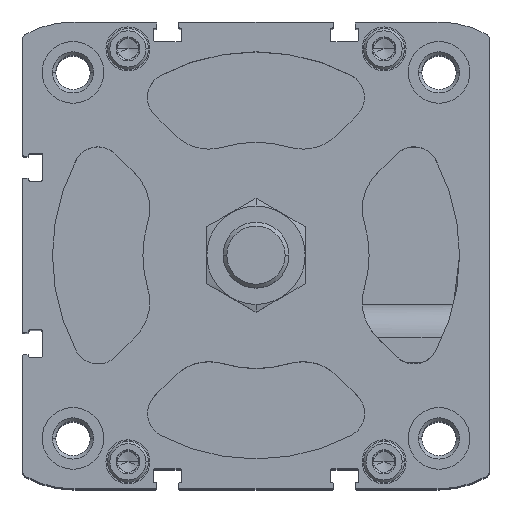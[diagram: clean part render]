
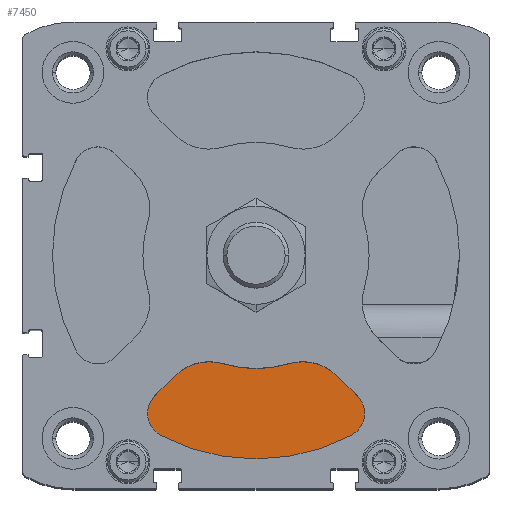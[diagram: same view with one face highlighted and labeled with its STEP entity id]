
A CAD part, top view. The second image highlights one B-rep face of the part: STEP entity #7450.
In plain terms, the highlighted planar face has unit normal (0, 0, 1).
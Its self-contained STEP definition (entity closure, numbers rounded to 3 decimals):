
#268 = CIRCLE ( 'NONE', #13044, 27.5 ) ;
#740 = CARTESIAN_POINT ( 'NONE',  ( 20.393, -38.424, -18.8 ) ) ;
#885 = CARTESIAN_POINT ( 'NONE',  ( 0., 0., -18.8 ) ) ;
#1167 = CARTESIAN_POINT ( 'NONE',  ( 23.205, -43.724, -18.8 ) ) ;
#1306 = LINE ( 'NONE', #18772, #6853 ) ;
#1476 = VERTEX_POINT ( 'NONE', #13177 ) ;
#1543 = DIRECTION ( 'NONE',  ( -0.707, -0.707, 0. ) ) ;
#1685 = DIRECTION ( 'NONE',  ( -1., 0., 0. ) ) ;
#2602 = CARTESIAN_POINT ( 'NONE',  ( 11.325, -37.842, -18.8 ) ) ;
#2688 = DIRECTION ( 'NONE',  ( 0., 0., 1. ) ) ;
#3190 = CIRCLE ( 'NONE', #17770, 12. ) ;
#3400 = DIRECTION ( 'NONE',  ( 0., 0., 1. ) ) ;
#3704 = ORIENTED_EDGE ( 'NONE', *, *, #3718, .T. ) ;
#3718 = EDGE_CURVE ( 'NONE', #1476, #17280, #22121, .T. ) ;
#3730 = EDGE_LOOP ( 'NONE', ( #3704, #15279, #8126, #14100, #13591, #5807, #6378, #14117, #4641 ) ) ;
#3914 = CIRCLE ( 'NONE', #21080, 6. ) ;
#3994 = DIRECTION ( 'NONE',  ( -1., 0., 0. ) ) ;
#4508 = CIRCLE ( 'NONE', #6711, 6. ) ;
#4544 = DIRECTION ( 'NONE',  ( 1., 0., 0. ) ) ;
#4641 = ORIENTED_EDGE ( 'NONE', *, *, #5900, .T. ) ;
#4778 = DIRECTION ( 'NONE',  ( -1., 0., 0. ) ) ;
#5171 = EDGE_CURVE ( 'NONE', #18215, #15072, #1306, .T. ) ;
#5225 = CARTESIAN_POINT ( 'NONE',  ( 0., 0., -18.8 ) ) ;
#5263 = EDGE_CURVE ( 'NONE', #17017, #11795, #17618, .T. ) ;
#5640 = VERTEX_POINT ( 'NONE', #8247 ) ;
#5807 = ORIENTED_EDGE ( 'NONE', *, *, #9056, .T. ) ;
#5900 = EDGE_CURVE ( 'NONE', #7285, #1476, #3914, .T. ) ;
#6110 = VECTOR ( 'NONE', #14085, 1000. ) ;
#6274 = EDGE_CURVE ( 'NONE', #11795, #5640, #3190, .T. ) ;
#6378 = ORIENTED_EDGE ( 'NONE', *, *, #5171, .T. ) ;
#6711 = AXIS2_PLACEMENT_3D ( 'NONE', #740, #7706, #21549 ) ;
#6853 = VECTOR ( 'NONE', #1543, 1000. ) ;
#7114 = CARTESIAN_POINT ( 'NONE',  ( 24.635, -34.181, -18.8 ) ) ;
#7285 = VERTEX_POINT ( 'NONE', #10722 ) ;
#7450 = ADVANCED_FACE ( 'NONE', ( #20192 ), #20307, .T. ) ;
#7706 = DIRECTION ( 'NONE',  ( 0., 0., 1. ) ) ;
#8126 = ORIENTED_EDGE ( 'NONE', *, *, #5263, .T. ) ;
#8247 = CARTESIAN_POINT ( 'NONE',  ( 7.885, -26.345, -18.8 ) ) ;
#8349 = AXIS2_PLACEMENT_3D ( 'NONE', #885, #20430, #4544 ) ;
#8540 = DIRECTION ( 'NONE',  ( 0., 0., 1. ) ) ;
#9056 = EDGE_CURVE ( 'NONE', #12600, #18215, #15864, .T. ) ;
#10077 = CARTESIAN_POINT ( 'NONE',  ( 19.81, -29.356, -18.8 ) ) ;
#10722 = CARTESIAN_POINT ( 'NONE',  ( -26.393, -38.424, -18.8 ) ) ;
#11795 = VERTEX_POINT ( 'NONE', #10077 ) ;
#12333 = EDGE_CURVE ( 'NONE', #17280, #17017, #4508, .T. ) ;
#12600 = VERTEX_POINT ( 'NONE', #13172 ) ;
#12680 = CARTESIAN_POINT ( 'NONE',  ( -20.393, -38.424, -18.8 ) ) ;
#13044 = AXIS2_PLACEMENT_3D ( 'NONE', #5225, #3400, #1685 ) ;
#13172 = CARTESIAN_POINT ( 'NONE',  ( -7.885, -26.345, -18.8 ) ) ;
#13177 = CARTESIAN_POINT ( 'NONE',  ( -23.205, -43.724, -18.8 ) ) ;
#13511 = CARTESIAN_POINT ( 'NONE',  ( -24.635, -34.181, -18.8 ) ) ;
#13584 = DIRECTION ( 'NONE',  ( 0., 0., 1. ) ) ;
#13591 = ORIENTED_EDGE ( 'NONE', *, *, #21186, .F. ) ;
#13871 = CARTESIAN_POINT ( 'NONE',  ( 24.635, -34.181, -18.8 ) ) ;
#14085 = DIRECTION ( 'NONE',  ( -0.707, 0.707, 0. ) ) ;
#14100 = ORIENTED_EDGE ( 'NONE', *, *, #6274, .T. ) ;
#14117 = ORIENTED_EDGE ( 'NONE', *, *, #14639, .T. ) ;
#14639 = EDGE_CURVE ( 'NONE', #15072, #7285, #20763, .T. ) ;
#15072 = VERTEX_POINT ( 'NONE', #13511 ) ;
#15279 = ORIENTED_EDGE ( 'NONE', *, *, #12333, .T. ) ;
#15507 = DIRECTION ( 'NONE',  ( -1., 0., 0. ) ) ;
#15864 = CIRCLE ( 'NONE', #20264, 12. ) ;
#16993 = CARTESIAN_POINT ( 'NONE',  ( -20.393, -38.424, -18.8 ) ) ;
#17017 = VERTEX_POINT ( 'NONE', #13871 ) ;
#17223 = CARTESIAN_POINT ( 'NONE',  ( 0., 0., -18.8 ) ) ;
#17280 = VERTEX_POINT ( 'NONE', #1167 ) ;
#17317 = CARTESIAN_POINT ( 'NONE',  ( -19.81, -29.356, -18.8 ) ) ;
#17618 = LINE ( 'NONE', #7114, #6110 ) ;
#17770 = AXIS2_PLACEMENT_3D ( 'NONE', #2602, #21804, #4778 ) ;
#18215 = VERTEX_POINT ( 'NONE', #17317 ) ;
#18320 = CARTESIAN_POINT ( 'NONE',  ( -11.325, -37.842, -18.8 ) ) ;
#18772 = CARTESIAN_POINT ( 'NONE',  ( -19.81, -29.356, -18.8 ) ) ;
#19636 = DIRECTION ( 'NONE',  ( 0., 0., 1. ) ) ;
#20192 = FACE_OUTER_BOUND ( 'NONE', #3730, .T. ) ;
#20264 = AXIS2_PLACEMENT_3D ( 'NONE', #18320, #2688, #21897 ) ;
#20307 = PLANE ( 'NONE',  #8349 ) ;
#20430 = DIRECTION ( 'NONE',  ( 0., 0., 1. ) ) ;
#20545 = DIRECTION ( 'NONE',  ( -1., 0., 0. ) ) ;
#20763 = CIRCLE ( 'NONE', #22252, 6. ) ;
#21013 = AXIS2_PLACEMENT_3D ( 'NONE', #17223, #8540, #15507 ) ;
#21080 = AXIS2_PLACEMENT_3D ( 'NONE', #12680, #19636, #3994 ) ;
#21186 = EDGE_CURVE ( 'NONE', #12600, #5640, #268, .T. ) ;
#21549 = DIRECTION ( 'NONE',  ( -1., 0., 0. ) ) ;
#21804 = DIRECTION ( 'NONE',  ( 0., 0., 1. ) ) ;
#21897 = DIRECTION ( 'NONE',  ( -1., 0., 0. ) ) ;
#22121 = CIRCLE ( 'NONE', #21013, 49.5 ) ;
#22252 = AXIS2_PLACEMENT_3D ( 'NONE', #16993, #13584, #20545 ) ;
